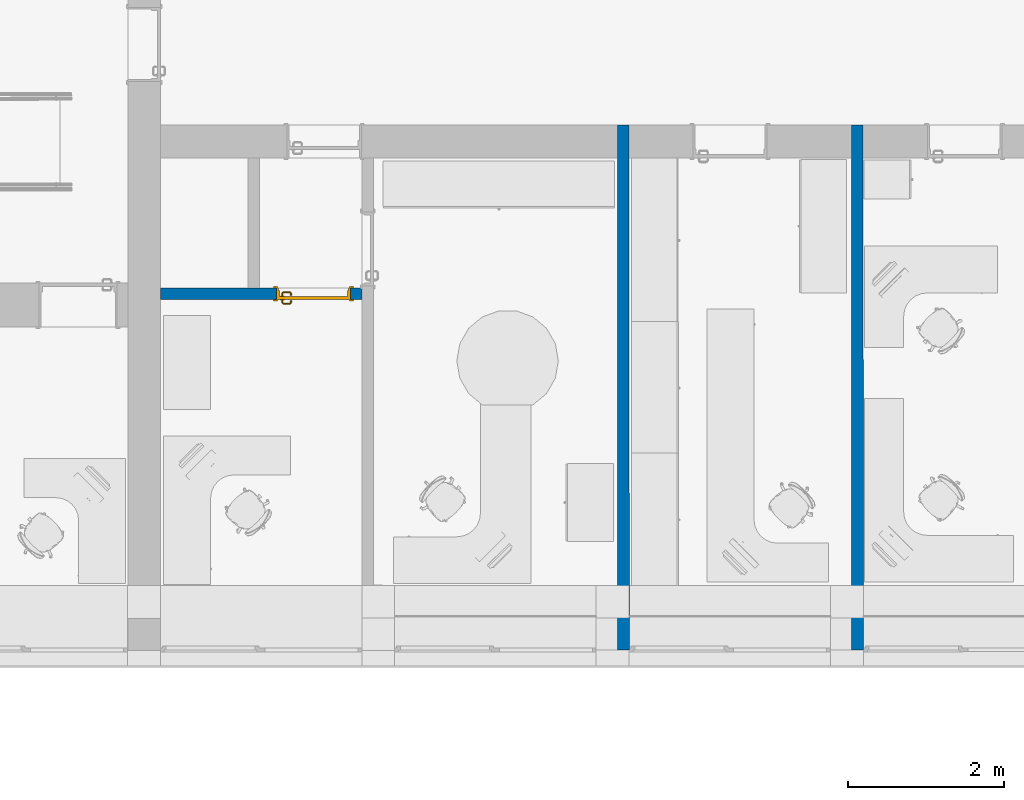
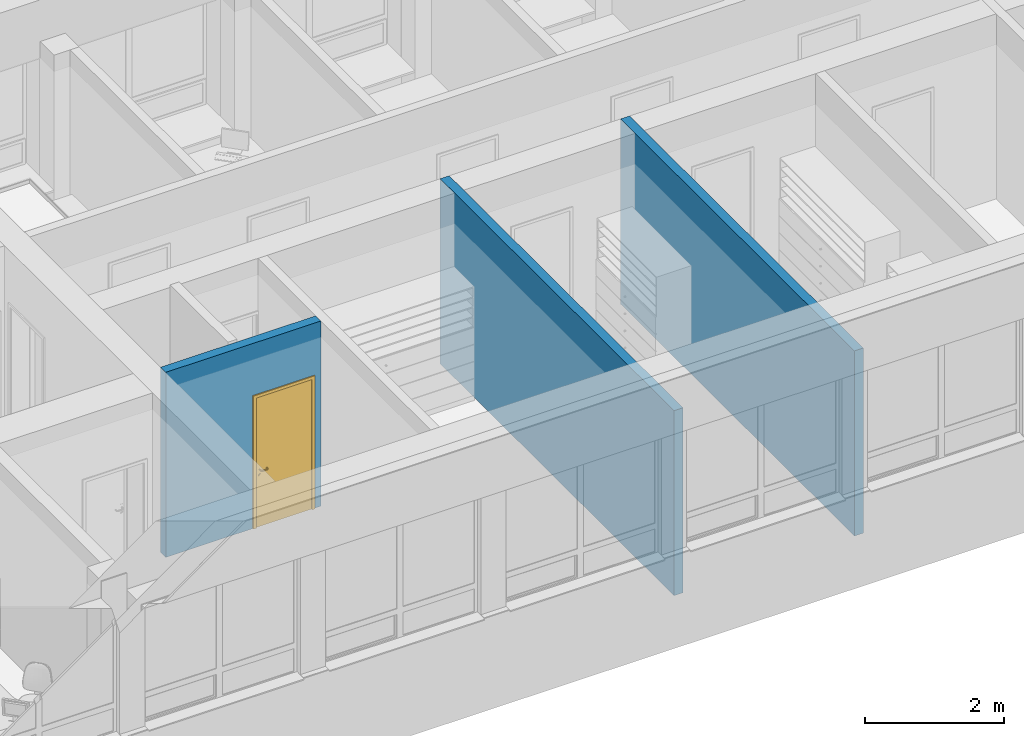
# One storey, part 11 of 194: 3 walls, 1 door, 1 opening.
"""IFC2X3 building model written with IfcOpenShell, lengths in millimetres."""

from ifc_helpers import new_model, entity, si_unit, converted_unit, derived_unit, money_unit, direction, frame, origin_with_axes, origin_2d_with_axis, place, context, subcontext, project, spatial, polyline, rectangle, outline, extrude, open_shell, faceted_brep, surface_model, source, transform, mapped, material, layer, layer_set, layer_usage, type_object, element, fill, save


model = new_model("IFC2X3")

# Units and contexts
model_context = context("Model", 3, precision=1e-05, world=origin_with_axes(), true_north=direction((0.0, 1.0)))
body_context = subcontext(model_context, "Body", "Model", "MODEL_VIEW")
ifc_project = project(units=[si_unit("LENGTHUNIT", "METRE", prefix="MILLI"), si_unit("AREAUNIT", "SQUARE_METRE"), si_unit("VOLUMEUNIT", "CUBIC_METRE"), converted_unit("PLANEANGLEUNIT", "DEGREE", entity("IfcPlaneAngleMeasure", 0.0174532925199), si_unit("PLANEANGLEUNIT", "RADIAN"), dimensions=[0, 0, 0, 0, 0, 0, 0]), si_unit("SOLIDANGLEUNIT", "STERADIAN"), money_unit("EUR"), converted_unit("TIMEUNIT", "Year", entity("IfcTimeMeasure", 31556926.0), si_unit("TIMEUNIT", "SECOND"), dimensions=[0, 0, 1, 0, 0, 0, 0]), si_unit("MASSUNIT", "GRAM", prefix="KILO"), si_unit("THERMODYNAMICTEMPERATUREUNIT", "DEGREE_CELSIUS"), si_unit("LUMINOUSINTENSITYUNIT", "LUMEN"), si_unit("ENERGYUNIT", "JOULE", prefix="MEGA"), derived_unit("THERMALCONDUCTANCEUNIT", [(si_unit("POWERUNIT", "WATT"), 1), (si_unit("LENGTHUNIT", "METRE"), -1), (si_unit("THERMODYNAMICTEMPERATUREUNIT", "KELVIN"), -1)]), derived_unit("SPECIFICHEATCAPACITYUNIT", [(si_unit("ENERGYUNIT", "JOULE"), 1), (si_unit("MASSUNIT", "GRAM", prefix="KILO"), -1), (si_unit("THERMODYNAMICTEMPERATUREUNIT", "KELVIN"), -1)]), derived_unit("MASSDENSITYUNIT", [(si_unit("MASSUNIT", "GRAM", prefix="KILO"), 1), (si_unit("VOLUMEUNIT", "CUBIC_METRE"), -1)])], contexts=[model_context])

# Site, building, storey
site_placement = place(None, origin_with_axes())
site = spatial("IfcSite", under=ifc_project, at=site_placement, Name="Site", CompositionType="ELEMENT")
building_placement = place(site_placement, origin_with_axes())
building = spatial("IfcBuilding", under=site, at=building_placement, Name="Building", CompositionType="ELEMENT")
storey_placement = place(building_placement, frame((0.0, 0.0, 3000.0), z_axis=(0.0, 0.0, 1.0), x_axis=(1.0, 0.0, 0.0)))
storey = spatial("IfcBuildingStorey", under=building, at=storey_placement, Name="2 KORRUS", CompositionType="ELEMENT", Elevation=3000.0)

# Walls
ifc_material_1 = material(Name="Kivi -Ol.Olev Konstruktsioon")
ifc_layer_1 = layer(ifc_material_1, 150.0, ventilated="UNKNOWN")
ifc_layer_set_1 = layer_set([ifc_layer_1], Name="ol.olev ss 150")
ifc_layer_usage_1 = layer_usage(ifc_layer_set_1, "AXIS2", "NEGATIVE", 0.0)
wall_type_1 = type_object("IfcWallType", Name="SW - 022", PredefinedType="NOTDEFINED")
wall_1_placement = place(storey_placement, frame((25150.6943252, 65630.0488672, 0.0), z_axis=(0.0, 0.0, 1.0), x_axis=(0.000614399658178, -0.999999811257, 0.0)))
element("IfcWallStandardCase", 1, at=wall_1_placement, inside=storey, type_object=wall_type_1, material=ifc_layer_usage_1, Name="ol.olev ss 150", context=body_context, shape_type="SweptSolid", body=[
    extrude(outline(polyline([(-9.09494701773e-10, -150.0), (6722.82170479, -150.0), (6722.82170479, 0.0), (0.0, 0.0), (-9.09494701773e-10, -150.0)])), origin_with_axes(), (0.0, 0.0, 1.0), 3250.0),
])
ifc_layer_usage_2 = layer_usage(ifc_layer_set_1, "AXIS2", "NEGATIVE", 0.0)
wall_2_placement = place(storey_placement, frame((22154.1034783, 65630.0488672, 0.0), z_axis=(0.0, 0.0, 1.0), x_axis=(0.000614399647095, -0.999999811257, 0.0)))
element("IfcWallStandardCase", 2, at=wall_2_placement, inside=storey, type_object=wall_type_1, material=ifc_layer_usage_2, Name="ol.olev ss 150", context=body_context, shape_type="SweptSolid", body=[
    extrude(outline(polyline([(-9.09494701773e-10, -150.0), (6723.24465252, -150.0), (6723.24465252, 0.0), (0.0, 0.0), (-9.09494701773e-10, -150.0)])), origin_with_axes(), (0.0, 0.0, 1.0), 3250.0),
])

# Wall, opening, door
ifc_material_2 = material(Name="Kivi -  Uus Konstruktsioon")
ifc_layer_2 = layer(ifc_material_2, 150.0, ventilated="UNKNOWN")
ifc_layer_set_2 = layer_set([ifc_layer_2], Name="uus ss 150")
ifc_layer_usage_3 = layer_usage(ifc_layer_set_2, "AXIS2", "NEGATIVE", 0.0)
wall_type_2 = type_object("IfcWallType", Name="SS-2", PredefinedType="NOTDEFINED")
wall_3_placement = place(storey_placement, frame((16157.2264449, 63546.4721353, 0.0), z_axis=(0.0, 0.0, 1.0), x_axis=(1.0, 0.0, 0.0)))
wall_3 = element("IfcWallStandardCase", 3, at=wall_3_placement, inside=storey, type_object=wall_type_2, material=ifc_layer_usage_3, Name="uus ss 150", context=body_context, shape_type="SweptSolid", body=[
    extrude(outline(polyline([(-1.04338369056e-05, -150.0), (2577.27966821, -150.0), (2577.28797582, 0.0), (2.00730028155e-05, 0.0), (-1.04338369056e-05, -150.0)])), origin_with_axes(), (0.0, 0.0, 1.0), 3250.0),
])
opening_placement = place(wall_3_placement, frame((1956.53280696, 0.0, 0.0), z_axis=(0.0, 0.0, 1.0), x_axis=(1.0, 0.0, 0.0)))
opening = element("IfcOpeningElement", 4, at=opening_placement, cuts=wall_3, Name="Siseuks * Door 22", context=body_context, shape_type="SweptSolid", body=[
    extrude(rectangle(XDim=950.0, YDim=2300.0, at=origin_2d_with_axis()), frame((0.0, 150.0, 1150.0), z_axis=(0.0, 1.0, 0.0), x_axis=(1.0, 0.0, 0.0)), (0.0, 0.0, -1.0), 450.0),
    extrude(rectangle(XDim=1024.0, YDim=2337.0, at=origin_2d_with_axis()), frame((0.0, 0.0, 1168.5), z_axis=(0.0, 1.0, 0.0), x_axis=(1.0, 0.0, 0.0)), (0.0, 0.0, 1.0), 150.0),
    extrude(rectangle(XDim=1024.0, YDim=2337.0, at=origin_2d_with_axis()), frame((0.0, -150.0, 1168.5), z_axis=(0.0, -1.0, 0.0), x_axis=(1.0, 0.0, 0.0)), (0.0, 0.0, 1.0), 150.0),
])
door_style = type_object("IfcDoorStyle", Name="SU-A209 B   950×2\xa0300", ConstructionType="NOTDEFINED", OperationType="SINGLE_SWING_LEFT", ParameterTakesPrecedence=False, Sizeable=False)
shared_shape = source(origin_with_axes(), body_context, "Body", "SurfaceModel", [
    faceted_brep([(475.0, -115.0, 0.0), (475.0, -150.0, 0.0), (450.0, -150.0, 0.0), (450.0, -115.0, 0.0), (475.0, -115.0, 2300.0), (475.0, -150.0, 2300.0), (450.0, -150.0, 2275.0), (450.0, -115.0, 2275.0)], [[[0, 1, 2, 3]], [[4, 5, 1, 0]], [[1, 5, 6, 2]], [[3, 2, 6, 7]], [[0, 3, 7, 4]], [[7, 6, 5, 4]]]),
    faceted_brep([(-475.0, -115.0, 2300.0), (-475.0, -150.0, 2300.0), (-450.0, -150.0, 2275.0), (-450.0, -115.0, 2275.0), (-475.0, -115.0, 0.0), (-475.0, -150.0, 0.0), (-450.0, -150.0, 0.0), (-450.0, -115.0, 0.0)], [[[0, 1, 2, 3]], [[4, 5, 1, 0]], [[1, 5, 6, 2]], [[3, 2, 6, 7]], [[0, 3, 7, 4]], [[7, 6, 5, 4]]]),
    faceted_brep([(450.0, -115.0, 2275.0), (450.0, -150.0, 2275.0), (-450.0, -150.0, 2275.0), (-450.0, -115.0, 2275.0), (475.0, -115.0, 2300.0), (475.0, -150.0, 2300.0), (-475.0, -150.0, 2300.0), (-475.0, -115.0, 2300.0)], [[[0, 1, 2, 3]], [[4, 5, 1, 0]], [[1, 5, 6, 2]], [[3, 2, 6, 7]], [[0, 3, 7, 4]], [[7, 6, 5, 4]]]),
    faceted_brep([(512.0, -169.0, 0.0), (462.0, -169.0, 0.0), (462.0, -150.0, 0.0), (512.0, -150.0, 0.0), (512.0, -169.0, 2337.0), (462.0, -169.0, 2287.0), (462.0, -150.0, 2287.0), (512.0, -150.0, 2337.0)], [[[0, 1, 2, 3]], [[0, 4, 5, 1]], [[1, 5, 6, 2]], [[3, 2, 6, 7]], [[4, 0, 3, 7]], [[5, 4, 7, 6]]]),
    faceted_brep([(-512.0, -169.0, 2337.0), (-462.0, -169.0, 2287.0), (-462.0, -150.0, 2287.0), (-512.0, -150.0, 2337.0), (-512.0, -169.0, 0.0), (-462.0, -169.0, 0.0), (-462.0, -150.0, 0.0), (-512.0, -150.0, 0.0)], [[[0, 1, 2, 3]], [[0, 4, 5, 1]], [[1, 5, 6, 2]], [[3, 2, 6, 7]], [[4, 0, 3, 7]], [[5, 4, 7, 6]]]),
    faceted_brep([(512.0, -169.0, 2337.0), (462.0, -169.0, 2287.0), (462.0, -150.0, 2287.0), (512.0, -150.0, 2337.0), (-512.0, -169.0, 2337.0), (-462.0, -169.0, 2287.0), (-462.0, -150.0, 2287.0), (-512.0, -150.0, 2337.0)], [[[0, 1, 2, 3]], [[0, 4, 5, 1]], [[1, 5, 6, 2]], [[3, 2, 6, 7]], [[4, 0, 3, 7]], [[5, 4, 7, 6]]]),
    faceted_brep([(512.0, 19.0, 0.0), (512.0, 0.0, 0.0), (462.0, 0.0, 0.0), (462.0, 19.0, 0.0), (512.0, 19.0, 2337.0), (512.0, 0.0, 2337.0), (462.0, 0.0, 2287.0), (462.0, 19.0, 2287.0)], [[[0, 1, 2, 3]], [[4, 5, 1, 0]], [[1, 5, 6, 2]], [[3, 2, 6, 7]], [[0, 3, 7, 4]], [[7, 6, 5, 4]]]),
    faceted_brep([(-512.0, 19.0, 2337.0), (-512.0, 0.0, 2337.0), (-462.0, 0.0, 2287.0), (-462.0, 19.0, 2287.0), (-512.0, 19.0, 0.0), (-512.0, 0.0, 0.0), (-462.0, 0.0, 0.0), (-462.0, 19.0, 0.0)], [[[0, 1, 2, 3]], [[4, 5, 1, 0]], [[1, 5, 6, 2]], [[3, 2, 6, 7]], [[0, 3, 7, 4]], [[7, 6, 5, 4]]]),
    faceted_brep([(512.0, 19.0, 2337.0), (512.0, 0.0, 2337.0), (462.0, 0.0, 2287.0), (462.0, 19.0, 2287.0), (-512.0, 19.0, 2337.0), (-512.0, 0.0, 2337.0), (-462.0, 0.0, 2287.0), (-462.0, 19.0, 2287.0)], [[[0, 1, 2, 3]], [[4, 5, 1, 0]], [[1, 5, 6, 2]], [[3, 2, 6, 7]], [[0, 3, 7, 4]], [[7, 6, 5, 4]]]),
    faceted_brep([(435.0, -40.0, 0.0), (435.0, -115.0, 0.0), (435.0, -115.0, 2260.0), (435.0, -40.0, 2260.0), (447.0, -40.0, 0.0), (447.0, 0.0, 0.0), (475.0, 0.0, 0.0), (475.0, -115.0, 0.0), (475.0, -115.0, 2260.0), (447.0, -40.0, 2260.0), (475.0, 0.0, 2260.0), (447.0, 0.0, 2260.0)], [[[0, 1, 2, 3]], [[4, 5, 6, 7, 1, 0]], [[1, 7, 8, 2]], [[9, 3, 2, 8, 10, 11]], [[9, 4, 0, 3]], [[11, 5, 4, 9]], [[11, 10, 6, 5]], [[6, 10, 8, 7]]]),
    faceted_brep([(-447.0, -40.0, 2260.0), (-447.0, 0.0, 2260.0), (-475.0, 0.0, 2260.0), (-475.0, -115.0, 2260.0), (-435.0, -115.0, 2260.0), (-435.0, -40.0, 2260.0), (-447.0, -40.0, 0.0), (-447.0, 0.0, 0.0), (-475.0, 0.0, 0.0), (-475.0, -115.0, 0.0), (-435.0, -115.0, 0.0), (-435.0, -40.0, 0.0)], [[[0, 1, 2, 3, 4, 5]], [[0, 6, 7, 1]], [[7, 8, 2, 1]], [[2, 8, 9, 3]], [[3, 9, 10, 4]], [[5, 4, 10, 11]], [[5, 11, 6, 0]], [[6, 11, 10, 9, 8, 7]]]),
    faceted_brep([(447.0, 0.0, 2272.0), (-447.0, 0.0, 2272.0), (-447.0, 0.0, 2260.0), (-475.0, 0.0, 2260.0), (-475.0, 0.0, 2300.0), (475.0, 0.0, 2300.0), (475.0, 0.0, 2260.0), (447.0, 0.0, 2260.0), (447.0, -40.0, 2272.0), (-447.0, -40.0, 2272.0), (-447.0, -40.0, 2260.0), (-435.0, -40.0, 2260.0), (-435.0, -115.0, 2260.0), (-475.0, -115.0, 2260.0), (-475.0, -115.0, 2300.0), (475.0, -115.0, 2300.0), (475.0, -115.0, 2260.0), (447.0, -40.0, 2260.0), (435.0, -115.0, 2260.0), (435.0, -40.0, 2260.0)], [[[0, 1, 2, 3, 4, 5, 6, 7]], [[0, 8, 9, 1]], [[1, 9, 10, 2]], [[10, 11, 12, 13, 3, 2]], [[4, 3, 13, 14]], [[5, 4, 14, 15]], [[6, 5, 15, 16]], [[17, 7, 6, 16, 18, 19]], [[7, 17, 8, 0]], [[10, 9, 8, 17, 19, 11]], [[19, 18, 12, 11]], [[12, 18, 16, 15, 14, 13]]]),
    faceted_brep([(425.5, -40.0, 1060.0), (368.5, -40.0, 1060.0), (368.5, -43.0, 1060.0), (425.5, -43.0, 1060.0), (425.5, -40.0, 870.0), (368.5, -40.0, 870.0), (368.5, -43.0, 870.0), (425.5, -43.0, 870.0)], [[[0, 1, 2, 3]], [[0, 4, 5, 1]], [[1, 5, 6, 2]], [[3, 2, 6, 7]], [[4, 0, 3, 7]], [[5, 4, 7, 6]]]),
    surface_model("IfcShellBasedSurfaceModel", [(387.0, -53.0, 1000.0), (389.928932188, -53.0, 992.928932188), (389.928932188, -72.303560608, 992.928932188), (387.0, -72.0150859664, 1000.0), (397.0, -53.0, 990.0), (397.0, -73.0, 990.0), (388.816790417, -77.8946748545, 992.928932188), (386.057796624, -76.751862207, 1000.0), (389.928932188, -53.0, 1007.07106781), (389.928932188, -72.303560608, 1007.07106781), (404.071067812, -53.0, 992.928932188), (404.071067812, -73.696439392, 992.928932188), (395.47759065, -80.6536686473, 990.0), (386.044179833, -82.0441798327, 992.928932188), (383.932537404, -79.9325374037, 1000.0), (388.816790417, -77.8946748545, 1007.07106781), (397.0, -53.0, 1010.0), (397.0, -73.0, 1010.0), (407.0, -53.0, 1000.0), (407.0, -73.9849140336, 1000.0), (402.138390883, -83.4126624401, 992.928932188), (391.142135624, -87.1421356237, 990.0), (381.894674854, -84.8167904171, 992.928932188), (380.751862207, -82.0577966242, 1000.0), (386.044179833, -82.0441798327, 1007.07106781), (395.47759065, -80.6536686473, 1010.0), (404.071067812, -53.0, 1007.07106781), (404.071067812, -73.696439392, 1007.07106781), (404.897384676, -84.5554750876, 1000.0), (396.240091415, -92.2400914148, 992.928932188), (384.653668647, -91.4775906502, 990.0), (376.303560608, -85.9289321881, 992.928932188), (376.015085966, -83.0, 1000.0), (381.894674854, -84.8167904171, 1007.07106781), (391.142135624, -87.1421356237, 1010.0), (402.138390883, -83.4126624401, 1007.07106781), (398.351733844, -94.3517338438, 1000.0), (387.41266244, -98.1383908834, 992.928932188), (377.0, -93.0, 990.0), (307.696439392, -85.9289321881, 992.928932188), (307.984914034, -83.0, 1000.0), (376.303560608, -85.9289321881, 1007.07106781), (384.653668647, -91.4775906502, 1010.0), (396.240091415, -92.2400914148, 1007.07106781), (388.555475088, -100.897384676, 1000.0), (377.696439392, -100.071067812, 992.928932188), (307.0, -93.0, 990.0), (302.105325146, -84.8167904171, 992.928932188), (303.248137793, -82.0577966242, 1000.0), (307.696439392, -85.9289321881, 1007.07106781), (377.0, -93.0, 1010.0), (387.41266244, -98.1383908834, 1007.07106781), (377.984914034, -103.0, 1000.0), (306.303560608, -100.071067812, 992.928932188), (299.346331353, -91.4775906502, 990.0), (297.955820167, -82.0441798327, 992.928932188), (300.067462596, -79.9325374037, 1000.0), (302.105325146, -84.8167904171, 1007.07106781), (307.0, -93.0, 1010.0), (377.696439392, -100.071067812, 1007.07106781), (306.015085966, -103.0, 1000.0), (296.58733756, -98.1383908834, 992.928932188), (292.857864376, -87.1421356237, 990.0), (295.183209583, -77.8946748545, 992.928932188), (297.942203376, -76.751862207, 1000.0), (297.955820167, -82.0441798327, 1007.07106781), (299.346331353, -91.4775906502, 1010.0), (306.303560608, -100.071067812, 1007.07106781), (295.444524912, -100.897384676, 1000.0), (287.759908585, -92.2400914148, 992.928932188), (288.52240935, -80.6536686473, 990.0), (294.071067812, -72.303560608, 992.928932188), (297.0, -72.0150859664, 1000.0), (295.183209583, -77.8946748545, 1007.07106781), (292.857864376, -87.1421356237, 1010.0), (296.58733756, -98.1383908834, 1007.07106781), (285.648266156, -94.3517338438, 1000.0), (281.861609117, -83.4126624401, 992.928932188), (287.0, -73.0, 990.0), (294.071067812, -53.0, 992.928932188), (297.0, -53.0, 1000.0), (294.071067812, -72.303560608, 1007.07106781), (288.52240935, -80.6536686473, 1010.0), (287.759908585, -92.2400914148, 1007.07106781), (279.102615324, -84.5554750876, 1000.0), (279.928932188, -73.696439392, 992.928932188), (287.0, -53.0, 990.0), (279.928932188, -53.0, 992.928932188), (277.0, -53.0, 1000.0), (279.928932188, -53.0, 1007.07106781), (287.0, -53.0, 1010.0), (294.071067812, -53.0, 1007.07106781), (287.0, -73.0, 1010.0), (281.861609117, -83.4126624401, 1007.07106781), (277.0, -73.9849140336, 1000.0), (279.928932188, -73.696439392, 1007.07106781)], [open_shell([[[0, 1, 2, 3]], [[1, 4, 5, 2]], [[3, 2, 6, 7]], [[8, 0, 3, 9]], [[4, 10, 11, 5]], [[2, 5, 12, 6]], [[7, 6, 13, 14]], [[9, 3, 7, 15]], [[16, 8, 9, 17]], [[10, 18, 19, 11]], [[5, 11, 20, 12]], [[6, 12, 21, 13]], [[14, 13, 22, 23]], [[15, 7, 14, 24]], [[17, 9, 15, 25]], [[26, 16, 17, 27]], [[18, 26, 27, 19]], [[11, 19, 28, 20]], [[12, 20, 29, 21]], [[13, 21, 30, 22]], [[23, 22, 31, 32]], [[24, 14, 23, 33]], [[25, 15, 24, 34]], [[27, 17, 25, 35]], [[19, 27, 35, 28]], [[20, 28, 36, 29]], [[21, 29, 37, 30]], [[22, 30, 38, 31]], [[32, 31, 39, 40]], [[33, 23, 32, 41]], [[34, 24, 33, 42]], [[35, 25, 34, 43]], [[28, 35, 43, 36]], [[29, 36, 44, 37]], [[30, 37, 45, 38]], [[31, 38, 46, 39]], [[40, 39, 47, 48]], [[41, 32, 40, 49]], [[42, 33, 41, 50]], [[43, 34, 42, 51]], [[36, 43, 51, 44]], [[37, 44, 52, 45]], [[38, 45, 53, 46]], [[39, 46, 54, 47]], [[48, 47, 55, 56]], [[49, 40, 48, 57]], [[50, 41, 49, 58]], [[51, 42, 50, 59]], [[44, 51, 59, 52]], [[45, 52, 60, 53]], [[46, 53, 61, 54]], [[47, 54, 62, 55]], [[56, 55, 63, 64]], [[57, 48, 56, 65]], [[58, 49, 57, 66]], [[59, 50, 58, 67]], [[52, 59, 67, 60]], [[53, 60, 68, 61]], [[54, 61, 69, 62]], [[55, 62, 70, 63]], [[64, 63, 71, 72]], [[65, 56, 64, 73]], [[66, 57, 65, 74]], [[67, 58, 66, 75]], [[60, 67, 75, 68]], [[61, 68, 76, 69]], [[62, 69, 77, 70]], [[63, 70, 78, 71]], [[72, 71, 79, 80]], [[73, 64, 72, 81]], [[74, 65, 73, 82]], [[75, 66, 74, 83]], [[68, 75, 83, 76]], [[69, 76, 84, 77]], [[70, 77, 85, 78]], [[71, 78, 86, 79]], [[80, 79, 86, 87, 88, 89, 90, 91]], [[81, 72, 80, 91]], [[82, 73, 81, 92]], [[83, 74, 82, 93]], [[76, 83, 93, 84]], [[77, 84, 94, 85]], [[78, 85, 87, 86]], [[85, 94, 88, 87]], [[94, 95, 89, 88]], [[95, 92, 90, 89]], [[92, 81, 91, 90]], [[93, 82, 92, 95]], [[84, 93, 95, 94]]])]),
    faceted_brep([(386.607695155, -53.0, 994.0), (385.0, -53.0, 1000.0), (384.0, -43.0, 1000.0), (385.741669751, -43.0, 993.5), (391.0, -53.0, 989.607695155), (397.0, -53.0, 988.0), (403.0, -53.0, 989.607695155), (407.392304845, -53.0, 994.0), (409.0, -53.0, 1000.0), (407.392304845, -53.0, 1006.0), (403.0, -53.0, 1010.39230485), (397.0, -53.0, 1012.0), (391.0, -53.0, 1010.39230485), (386.607695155, -53.0, 1006.0), (385.741669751, -43.0, 1006.5), (390.5, -43.0, 1011.25833025), (397.0, -43.0, 1013.0), (403.5, -43.0, 1011.25833025), (408.258330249, -43.0, 1006.5), (410.0, -43.0, 1000.0), (408.258330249, -43.0, 993.5), (403.5, -43.0, 988.741669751), (397.0, -43.0, 987.0), (390.5, -43.0, 988.741669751)], [[[0, 1, 2, 3]], [[1, 0, 4, 5, 6, 7, 8, 9, 10, 11, 12, 13]], [[1, 13, 14, 2]], [[2, 14, 15, 16, 17, 18, 19, 20, 21, 22, 23, 3]], [[4, 0, 3, 23]], [[5, 4, 23, 22]], [[6, 5, 22, 21]], [[7, 6, 21, 20]], [[8, 7, 20, 19]], [[9, 8, 19, 18]], [[10, 9, 18, 17]], [[11, 10, 17, 16]], [[12, 11, 16, 15]], [[13, 12, 15, 14]]]),
    faceted_brep([(379.679491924, -47.0, 895.0), (377.0, -47.0, 905.0), (375.0, -43.0, 905.0), (377.947441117, -43.0, 894.0), (387.0, -47.0, 887.679491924), (397.0, -47.0, 885.0), (407.0, -47.0, 887.679491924), (414.320508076, -47.0, 895.0), (417.0, -47.0, 905.0), (414.320508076, -47.0, 915.0), (407.0, -47.0, 922.320508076), (397.0, -47.0, 925.0), (387.0, -47.0, 922.320508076), (379.679491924, -47.0, 915.0), (377.947441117, -43.0, 916.0), (386.0, -43.0, 924.052558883), (397.0, -43.0, 927.0), (408.0, -43.0, 924.052558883), (416.052558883, -43.0, 916.0), (419.0, -43.0, 905.0), (416.052558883, -43.0, 894.0), (408.0, -43.0, 885.947441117), (397.0, -43.0, 883.0), (386.0, -43.0, 885.947441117)], [[[0, 1, 2, 3]], [[1, 0, 4, 5, 6, 7, 8, 9, 10, 11, 12, 13]], [[1, 13, 14, 2]], [[2, 14, 15, 16, 17, 18, 19, 20, 21, 22, 23, 3]], [[4, 0, 3, 23]], [[5, 4, 23, 22]], [[6, 5, 22, 21]], [[7, 6, 21, 20]], [[8, 7, 20, 19]], [[9, 8, 19, 18]], [[10, 9, 18, 17]], [[11, 10, 17, 16]], [[12, 11, 16, 15]], [[13, 12, 15, 14]]]),
    faceted_brep([(392.050252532, -49.0, 909.050252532), (390.0, -49.0, 914.0), (389.0, -47.0, 914.0), (391.343145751, -47.0, 908.343145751), (397.0, -49.0, 907.0), (401.949747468, -49.0, 909.050252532), (404.0, -49.0, 914.0), (401.949747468, -49.0, 918.949747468), (397.0, -49.0, 921.0), (392.050252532, -49.0, 918.949747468), (391.343145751, -47.0, 919.656854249), (397.0, -47.0, 922.0), (402.656854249, -47.0, 919.656854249), (405.0, -47.0, 914.0), (402.656854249, -47.0, 908.343145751), (397.0, -47.0, 906.0)], [[[0, 1, 2, 3]], [[1, 0, 4, 5, 6, 7, 8, 9]], [[1, 9, 10, 2]], [[2, 10, 11, 12, 13, 14, 15, 3]], [[4, 0, 3, 15]], [[5, 4, 15, 14]], [[6, 5, 14, 13]], [[7, 6, 13, 12]], [[8, 7, 12, 11]], [[9, 8, 11, 10]]]),
    faceted_brep([(425.5, 0.0, 1060.0), (425.5, 3.0, 1060.0), (368.5, 3.0, 1060.0), (368.5, 0.0, 1060.0), (425.5, 0.0, 870.0), (425.5, 3.0, 870.0), (368.5, 3.0, 870.0), (368.5, 0.0, 870.0)], [[[0, 1, 2, 3]], [[4, 5, 1, 0]], [[1, 5, 6, 2]], [[3, 2, 6, 7]], [[0, 3, 7, 4]], [[7, 6, 5, 4]]]),
    surface_model("IfcShellBasedSurfaceModel", [(387.0, 13.0, 1000.0), (387.0, 32.0150859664, 1000.0), (389.928932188, 32.303560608, 992.928932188), (389.928932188, 13.0, 992.928932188), (389.928932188, 13.0, 1007.07106781), (389.928932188, 32.303560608, 1007.07106781), (386.057796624, 36.751862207, 1000.0), (388.816790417, 37.8946748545, 992.928932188), (397.0, 33.0, 990.0), (397.0, 13.0, 990.0), (397.0, 13.0, 1010.0), (397.0, 33.0, 1010.0), (388.816790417, 37.8946748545, 1007.07106781), (383.932537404, 39.9325374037, 1000.0), (386.044179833, 42.0441798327, 992.928932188), (395.47759065, 40.6536686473, 990.0), (404.071067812, 33.696439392, 992.928932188), (404.071067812, 13.0, 992.928932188), (404.071067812, 13.0, 1007.07106781), (404.071067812, 33.696439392, 1007.07106781), (395.47759065, 40.6536686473, 1010.0), (386.044179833, 42.0441798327, 1007.07106781), (380.751862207, 42.0577966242, 1000.0), (381.894674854, 44.8167904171, 992.928932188), (391.142135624, 47.1421356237, 990.0), (402.138390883, 43.4126624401, 992.928932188), (407.0, 33.9849140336, 1000.0), (407.0, 13.0, 1000.0), (402.138390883, 43.4126624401, 1007.07106781), (391.142135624, 47.1421356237, 1010.0), (381.894674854, 44.8167904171, 1007.07106781), (376.015085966, 43.0, 1000.0), (376.303560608, 45.9289321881, 992.928932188), (384.653668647, 51.4775906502, 990.0), (396.240091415, 52.2400914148, 992.928932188), (404.897384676, 44.5554750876, 1000.0), (396.240091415, 52.2400914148, 1007.07106781), (384.653668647, 51.4775906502, 1010.0), (376.303560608, 45.9289321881, 1007.07106781), (307.984914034, 43.0, 1000.0), (307.696439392, 45.9289321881, 992.928932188), (377.0, 53.0, 990.0), (387.41266244, 58.1383908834, 992.928932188), (398.351733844, 54.3517338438, 1000.0), (387.41266244, 58.1383908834, 1007.07106781), (377.0, 53.0, 1010.0), (307.696439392, 45.9289321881, 1007.07106781), (303.248137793, 42.0577966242, 1000.0), (302.105325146, 44.8167904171, 992.928932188), (307.0, 53.0, 990.0), (377.696439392, 60.0710678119, 992.928932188), (388.555475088, 60.8973846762, 1000.0), (377.696439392, 60.0710678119, 1007.07106781), (307.0, 53.0, 1010.0), (302.105325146, 44.8167904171, 1007.07106781), (300.067462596, 39.9325374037, 1000.0), (297.955820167, 42.0441798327, 992.928932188), (299.346331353, 51.4775906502, 990.0), (306.303560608, 60.0710678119, 992.928932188), (377.984914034, 63.0, 1000.0), (306.303560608, 60.0710678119, 1007.07106781), (299.346331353, 51.4775906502, 1010.0), (297.955820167, 42.0441798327, 1007.07106781), (297.942203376, 36.751862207, 1000.0), (295.183209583, 37.8946748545, 992.928932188), (292.857864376, 47.1421356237, 990.0), (296.58733756, 58.1383908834, 992.928932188), (306.015085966, 63.0, 1000.0), (296.58733756, 58.1383908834, 1007.07106781), (292.857864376, 47.1421356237, 1010.0), (295.183209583, 37.8946748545, 1007.07106781), (297.0, 32.0150859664, 1000.0), (294.071067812, 32.303560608, 992.928932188), (288.52240935, 40.6536686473, 990.0), (287.759908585, 52.2400914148, 992.928932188), (295.444524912, 60.8973846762, 1000.0), (287.759908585, 52.2400914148, 1007.07106781), (288.52240935, 40.6536686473, 1010.0), (294.071067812, 32.303560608, 1007.07106781), (297.0, 13.0, 1000.0), (294.071067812, 13.0, 992.928932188), (287.0, 33.0, 990.0), (281.861609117, 43.4126624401, 992.928932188), (285.648266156, 54.3517338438, 1000.0), (281.861609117, 43.4126624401, 1007.07106781), (287.0, 33.0, 1010.0), (294.071067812, 13.0, 1007.07106781), (287.0, 13.0, 1010.0), (279.928932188, 13.0, 1007.07106781), (277.0, 13.0, 1000.0), (279.928932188, 13.0, 992.928932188), (287.0, 13.0, 990.0), (279.928932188, 33.696439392, 992.928932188), (279.102615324, 44.5554750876, 1000.0), (279.928932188, 33.696439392, 1007.07106781), (277.0, 33.9849140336, 1000.0)], [open_shell([[[0, 1, 2, 3]], [[4, 5, 1, 0]], [[1, 6, 7, 2]], [[3, 2, 8, 9]], [[10, 11, 5, 4]], [[5, 12, 6, 1]], [[6, 13, 14, 7]], [[2, 7, 15, 8]], [[9, 8, 16, 17]], [[18, 19, 11, 10]], [[11, 20, 12, 5]], [[12, 21, 13, 6]], [[13, 22, 23, 14]], [[7, 14, 24, 15]], [[8, 15, 25, 16]], [[17, 16, 26, 27]], [[27, 26, 19, 18]], [[19, 28, 20, 11]], [[20, 29, 21, 12]], [[21, 30, 22, 13]], [[22, 31, 32, 23]], [[14, 23, 33, 24]], [[15, 24, 34, 25]], [[16, 25, 35, 26]], [[26, 35, 28, 19]], [[28, 36, 29, 20]], [[29, 37, 30, 21]], [[30, 38, 31, 22]], [[31, 39, 40, 32]], [[23, 32, 41, 33]], [[24, 33, 42, 34]], [[25, 34, 43, 35]], [[35, 43, 36, 28]], [[36, 44, 37, 29]], [[37, 45, 38, 30]], [[38, 46, 39, 31]], [[39, 47, 48, 40]], [[32, 40, 49, 41]], [[33, 41, 50, 42]], [[34, 42, 51, 43]], [[43, 51, 44, 36]], [[44, 52, 45, 37]], [[45, 53, 46, 38]], [[46, 54, 47, 39]], [[47, 55, 56, 48]], [[40, 48, 57, 49]], [[41, 49, 58, 50]], [[42, 50, 59, 51]], [[51, 59, 52, 44]], [[52, 60, 53, 45]], [[53, 61, 54, 46]], [[54, 62, 55, 47]], [[55, 63, 64, 56]], [[48, 56, 65, 57]], [[49, 57, 66, 58]], [[50, 58, 67, 59]], [[59, 67, 60, 52]], [[60, 68, 61, 53]], [[61, 69, 62, 54]], [[62, 70, 63, 55]], [[63, 71, 72, 64]], [[56, 64, 73, 65]], [[57, 65, 74, 66]], [[58, 66, 75, 67]], [[67, 75, 68, 60]], [[68, 76, 69, 61]], [[69, 77, 70, 62]], [[70, 78, 71, 63]], [[71, 79, 80, 72]], [[64, 72, 81, 73]], [[65, 73, 82, 74]], [[66, 74, 83, 75]], [[75, 83, 76, 68]], [[76, 84, 77, 69]], [[77, 85, 78, 70]], [[78, 86, 79, 71]], [[79, 86, 87, 88, 89, 90, 91, 80]], [[72, 80, 91, 81]], [[73, 81, 92, 82]], [[74, 82, 93, 83]], [[83, 93, 84, 76]], [[84, 94, 85, 77]], [[85, 87, 86, 78]], [[94, 88, 87, 85]], [[95, 89, 88, 94]], [[92, 90, 89, 95]], [[81, 91, 90, 92]], [[82, 92, 95, 93]], [[93, 95, 94, 84]]])]),
    faceted_brep([(386.607695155, 13.0, 994.0), (385.741669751, 3.0, 993.5), (384.0, 3.0, 1000.0), (385.0, 13.0, 1000.0), (391.0, 13.0, 989.607695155), (390.5, 3.0, 988.741669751), (397.0, 3.0, 987.0), (403.5, 3.0, 988.741669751), (408.258330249, 3.0, 993.5), (410.0, 3.0, 1000.0), (408.258330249, 3.0, 1006.5), (403.5, 3.0, 1011.25833025), (397.0, 3.0, 1013.0), (390.5, 3.0, 1011.25833025), (385.741669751, 3.0, 1006.5), (386.607695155, 13.0, 1006.0), (391.0, 13.0, 1010.39230485), (397.0, 13.0, 1012.0), (403.0, 13.0, 1010.39230485), (407.392304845, 13.0, 1006.0), (409.0, 13.0, 1000.0), (407.392304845, 13.0, 994.0), (403.0, 13.0, 989.607695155), (397.0, 13.0, 988.0)], [[[0, 1, 2, 3]], [[4, 5, 1, 0]], [[2, 1, 5, 6, 7, 8, 9, 10, 11, 12, 13, 14]], [[3, 2, 14, 15]], [[3, 15, 16, 17, 18, 19, 20, 21, 22, 23, 4, 0]], [[23, 6, 5, 4]], [[22, 7, 6, 23]], [[21, 8, 7, 22]], [[20, 9, 8, 21]], [[19, 10, 9, 20]], [[18, 11, 10, 19]], [[17, 12, 11, 18]], [[16, 13, 12, 17]], [[15, 14, 13, 16]]]),
    faceted_brep([(379.679491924, 7.0, 895.0), (377.947441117, 3.0, 894.0), (375.0, 3.0, 905.0), (377.0, 7.0, 905.0), (387.0, 7.0, 887.679491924), (386.0, 3.0, 885.947441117), (397.0, 3.0, 883.0), (408.0, 3.0, 885.947441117), (416.052558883, 3.0, 894.0), (419.0, 3.0, 905.0), (416.052558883, 3.0, 916.0), (408.0, 3.0, 924.052558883), (397.0, 3.0, 927.0), (386.0, 3.0, 924.052558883), (377.947441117, 3.0, 916.0), (379.679491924, 7.0, 915.0), (387.0, 7.0, 922.320508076), (397.0, 7.0, 925.0), (407.0, 7.0, 922.320508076), (414.320508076, 7.0, 915.0), (417.0, 7.0, 905.0), (414.320508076, 7.0, 895.0), (407.0, 7.0, 887.679491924), (397.0, 7.0, 885.0)], [[[0, 1, 2, 3]], [[4, 5, 1, 0]], [[2, 1, 5, 6, 7, 8, 9, 10, 11, 12, 13, 14]], [[3, 2, 14, 15]], [[3, 15, 16, 17, 18, 19, 20, 21, 22, 23, 4, 0]], [[23, 6, 5, 4]], [[22, 7, 6, 23]], [[21, 8, 7, 22]], [[20, 9, 8, 21]], [[19, 10, 9, 20]], [[18, 11, 10, 19]], [[17, 12, 11, 18]], [[16, 13, 12, 17]], [[15, 14, 13, 16]]]),
    faceted_brep([(392.050252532, 9.0, 909.050252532), (391.343145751, 7.0, 908.343145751), (389.0, 7.0, 914.0), (390.0, 9.0, 914.0), (397.0, 9.0, 907.0), (397.0, 7.0, 906.0), (402.656854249, 7.0, 908.343145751), (405.0, 7.0, 914.0), (402.656854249, 7.0, 919.656854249), (397.0, 7.0, 922.0), (391.343145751, 7.0, 919.656854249), (392.050252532, 9.0, 918.949747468), (397.0, 9.0, 921.0), (401.949747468, 9.0, 918.949747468), (404.0, 9.0, 914.0), (401.949747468, 9.0, 909.050252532)], [[[0, 1, 2, 3]], [[4, 5, 1, 0]], [[2, 1, 5, 6, 7, 8, 9, 10]], [[3, 2, 10, 11]], [[3, 11, 12, 13, 14, 15, 4, 0]], [[15, 6, 5, 4]], [[14, 7, 6, 15]], [[13, 8, 7, 14]], [[12, 9, 8, 13]], [[11, 10, 9, 12]]]),
    faceted_brep([(-447.0, 0.0, 0.0), (447.0, 0.0, 0.0), (447.0, -40.0, 0.0), (-447.0, -40.0, 0.0), (-447.0, 0.0, 2272.0), (447.0, 0.0, 2272.0), (447.0, -40.0, 2272.0), (-447.0, -40.0, 2272.0)], [[[0, 1, 2, 3]], [[0, 4, 5, 1]], [[1, 5, 6, 2]], [[3, 2, 6, 7]], [[4, 0, 3, 7]], [[5, 4, 7, 6]]]),
])
door_placement = place(opening_placement, frame((475.0, 0.0, 0.0), z_axis=(0.0, 0.0, 1.0), x_axis=(-1.0, 0.0, 0.0)))
door = element("IfcDoor", 5, at=door_placement, inside=storey, type_object=door_style, Name="Siseuks * Door 22", OverallHeight=2300.0, OverallWidth=950.0, context=body_context, shape_type="MappedRepresentation", body=[
    mapped(shared_shape, transform((475.0, 150.0, 0.0))),
])
fill(opening, door)

save(model, "model.ifc")
